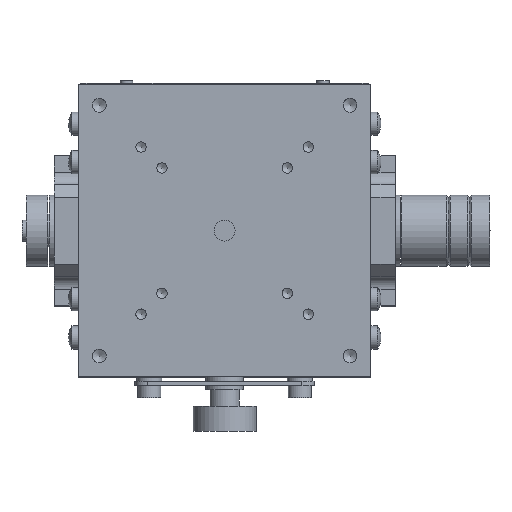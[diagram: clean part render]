
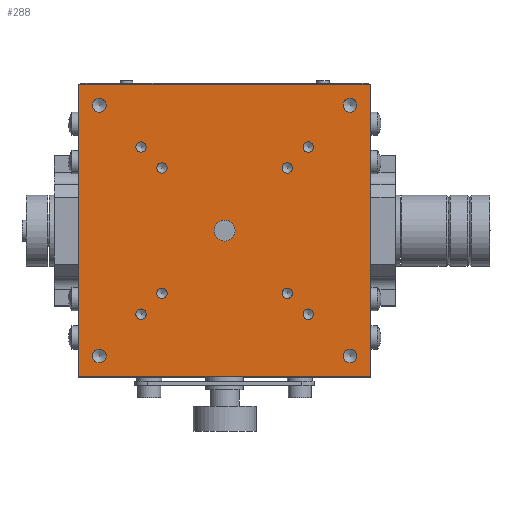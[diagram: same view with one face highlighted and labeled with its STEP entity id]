
A CAD part, top view. The second image highlights one B-rep face of the part: STEP entity #288.
In plain terms, the highlighted planar face has unit normal (0, 0, 1).
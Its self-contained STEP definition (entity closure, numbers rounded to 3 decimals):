
#288 = ADVANCED_FACE( '', ( #671, #672, #673, #674, #675, #676, #677, #678, #679, #680, #681, #682, #683, #684 ), #685, .T. );
#671 = FACE_BOUND( '', #1235, .T. );
#672 = FACE_BOUND( '', #1236, .T. );
#673 = FACE_BOUND( '', #1237, .T. );
#674 = FACE_BOUND( '', #1238, .T. );
#675 = FACE_BOUND( '', #1239, .T. );
#676 = FACE_BOUND( '', #1240, .T. );
#677 = FACE_BOUND( '', #1241, .T. );
#678 = FACE_BOUND( '', #1242, .T. );
#679 = FACE_BOUND( '', #1243, .T. );
#680 = FACE_BOUND( '', #1244, .T. );
#681 = FACE_BOUND( '', #1245, .T. );
#682 = FACE_BOUND( '', #1246, .T. );
#683 = FACE_OUTER_BOUND( '', #1247, .T. );
#684 = FACE_BOUND( '', #1248, .T. );
#685 = PLANE( '', #1249 );
#1235 = EDGE_LOOP( '', ( #2398 ) );
#1236 = EDGE_LOOP( '', ( #2399 ) );
#1237 = EDGE_LOOP( '', ( #2400 ) );
#1238 = EDGE_LOOP( '', ( #2401 ) );
#1239 = EDGE_LOOP( '', ( #2402 ) );
#1240 = EDGE_LOOP( '', ( #2403 ) );
#1241 = EDGE_LOOP( '', ( #2404 ) );
#1242 = EDGE_LOOP( '', ( #2405 ) );
#1243 = EDGE_LOOP( '', ( #2406 ) );
#1244 = EDGE_LOOP( '', ( #2407 ) );
#1245 = EDGE_LOOP( '', ( #2408 ) );
#1246 = EDGE_LOOP( '', ( #2409 ) );
#1247 = EDGE_LOOP( '', ( #2410, #2411, #2412, #2413 ) );
#1248 = EDGE_LOOP( '', ( #2414 ) );
#1249 = AXIS2_PLACEMENT_3D( '', #2415, #2416, #2417 );
#2398 = ORIENTED_EDGE( '', *, *, #3209, .T. );
#2399 = ORIENTED_EDGE( '', *, *, #3210, .T. );
#2400 = ORIENTED_EDGE( '', *, *, #3211, .T. );
#2401 = ORIENTED_EDGE( '', *, *, #3212, .T. );
#2402 = ORIENTED_EDGE( '', *, *, #3213, .T. );
#2403 = ORIENTED_EDGE( '', *, *, #3214, .T. );
#2404 = ORIENTED_EDGE( '', *, *, #3215, .T. );
#2405 = ORIENTED_EDGE( '', *, *, #3216, .T. );
#2406 = ORIENTED_EDGE( '', *, *, #3217, .T. );
#2407 = ORIENTED_EDGE( '', *, *, #3218, .T. );
#2408 = ORIENTED_EDGE( '', *, *, #3219, .T. );
#2409 = ORIENTED_EDGE( '', *, *, #3220, .T. );
#2410 = ORIENTED_EDGE( '', *, *, #3221, .F. );
#2411 = ORIENTED_EDGE( '', *, *, #3222, .F. );
#2412 = ORIENTED_EDGE( '', *, *, #3223, .F. );
#2413 = ORIENTED_EDGE( '', *, *, #3200, .F. );
#2414 = ORIENTED_EDGE( '', *, *, #3224, .T. );
#2415 = CARTESIAN_POINT( '', ( 0., 0., 26. ) );
#2416 = DIRECTION( '', ( 0., 0., 1. ) );
#2417 = DIRECTION( '', ( -1., 0., 0. ) );
#3200 = EDGE_CURVE( '', #3786, #3789, #3790, .T. );
#3209 = EDGE_CURVE( '', #3806, #3806, #3807, .T. );
#3210 = EDGE_CURVE( '', #3808, #3808, #3809, .T. );
#3211 = EDGE_CURVE( '', #3810, #3810, #3811, .T. );
#3212 = EDGE_CURVE( '', #3812, #3812, #3813, .T. );
#3213 = EDGE_CURVE( '', #3814, #3814, #3815, .T. );
#3214 = EDGE_CURVE( '', #3816, #3816, #3817, .T. );
#3215 = EDGE_CURVE( '', #3818, #3818, #3819, .T. );
#3216 = EDGE_CURVE( '', #3820, #3820, #3821, .T. );
#3217 = EDGE_CURVE( '', #3822, #3822, #3823, .T. );
#3218 = EDGE_CURVE( '', #3824, #3824, #3825, .T. );
#3219 = EDGE_CURVE( '', #3826, #3826, #3827, .T. );
#3220 = EDGE_CURVE( '', #3828, #3828, #3829, .T. );
#3221 = EDGE_CURVE( '', #3830, #3786, #3831, .T. );
#3222 = EDGE_CURVE( '', #3832, #3830, #3833, .T. );
#3223 = EDGE_CURVE( '', #3789, #3832, #3834, .T. );
#3224 = EDGE_CURVE( '', #3835, #3835, #3836, .T. );
#3786 = VERTEX_POINT( '', #4896 );
#3789 = VERTEX_POINT( '', #4900 );
#3790 = LINE( '', #4901, #4902 );
#3806 = VERTEX_POINT( '', #4924 );
#3807 = CIRCLE( '', #4925, 1.25 );
#3808 = VERTEX_POINT( '', #4926 );
#3809 = CIRCLE( '', #4927, 1.25 );
#3810 = VERTEX_POINT( '', #4928 );
#3811 = CIRCLE( '', #4929, 1.25 );
#3812 = VERTEX_POINT( '', #4930 );
#3813 = CIRCLE( '', #4931, 1.25 );
#3814 = VERTEX_POINT( '', #4932 );
#3815 = CIRCLE( '', #4933, 1.25 );
#3816 = VERTEX_POINT( '', #4934 );
#3817 = CIRCLE( '', #4935, 1.25 );
#3818 = VERTEX_POINT( '', #4936 );
#3819 = CIRCLE( '', #4937, 1.25 );
#3820 = VERTEX_POINT( '', #4938 );
#3821 = CIRCLE( '', #4939, 1.25 );
#3822 = VERTEX_POINT( '', #4940 );
#3823 = CIRCLE( '', #4941, 1.65 );
#3824 = VERTEX_POINT( '', #4942 );
#3825 = CIRCLE( '', #4943, 1.65 );
#3826 = VERTEX_POINT( '', #4944 );
#3827 = CIRCLE( '', #4945, 1.65 );
#3828 = VERTEX_POINT( '', #4946 );
#3829 = CIRCLE( '', #4947, 1.65 );
#3830 = VERTEX_POINT( '', #4948 );
#3831 = LINE( '', #4949, #4950 );
#3832 = VERTEX_POINT( '', #4951 );
#3833 = LINE( '', #4952, #4953 );
#3834 = LINE( '', #4954, #4955 );
#3835 = VERTEX_POINT( '', #4956 );
#3836 = CIRCLE( '', #4957, 2.5 );
#4896 = CARTESIAN_POINT( '', ( -35., -35., 26. ) );
#4900 = CARTESIAN_POINT( '', ( -35., 35., 26. ) );
#4901 = CARTESIAN_POINT( '', ( -35., 0., 26. ) );
#4902 = VECTOR( '', #5596, 1000. );
#4924 = CARTESIAN_POINT( '', ( 16.25, -15., 26. ) );
#4925 = AXIS2_PLACEMENT_3D( '', #5609, #5610, #5611 );
#4926 = CARTESIAN_POINT( '', ( 16.25, 15., 26. ) );
#4927 = AXIS2_PLACEMENT_3D( '', #5612, #5613, #5614 );
#4928 = CARTESIAN_POINT( '', ( -13.75, 15., 26. ) );
#4929 = AXIS2_PLACEMENT_3D( '', #5615, #5616, #5617 );
#4930 = CARTESIAN_POINT( '', ( -13.75, -15., 26. ) );
#4931 = AXIS2_PLACEMENT_3D( '', #5618, #5619, #5620 );
#4932 = CARTESIAN_POINT( '', ( 21.25, -20., 26. ) );
#4933 = AXIS2_PLACEMENT_3D( '', #5621, #5622, #5623 );
#4934 = CARTESIAN_POINT( '', ( 21.25, 20., 26. ) );
#4935 = AXIS2_PLACEMENT_3D( '', #5624, #5625, #5626 );
#4936 = CARTESIAN_POINT( '', ( -18.75, 20., 26. ) );
#4937 = AXIS2_PLACEMENT_3D( '', #5627, #5628, #5629 );
#4938 = CARTESIAN_POINT( '', ( -18.75, -20., 26. ) );
#4939 = AXIS2_PLACEMENT_3D( '', #5630, #5631, #5632 );
#4940 = CARTESIAN_POINT( '', ( 30., -31.65, 26. ) );
#4941 = AXIS2_PLACEMENT_3D( '', #5633, #5634, #5635 );
#4942 = CARTESIAN_POINT( '', ( 30., 28.35, 26. ) );
#4943 = AXIS2_PLACEMENT_3D( '', #5636, #5637, #5638 );
#4944 = CARTESIAN_POINT( '', ( -30., 28.35, 26. ) );
#4945 = AXIS2_PLACEMENT_3D( '', #5639, #5640, #5641 );
#4946 = CARTESIAN_POINT( '', ( -30., -31.65, 26. ) );
#4947 = AXIS2_PLACEMENT_3D( '', #5642, #5643, #5644 );
#4948 = CARTESIAN_POINT( '', ( 35., -35., 26. ) );
#4949 = CARTESIAN_POINT( '', ( 0., -35., 26. ) );
#4950 = VECTOR( '', #5645, 1000. );
#4951 = CARTESIAN_POINT( '', ( 35., 35., 26. ) );
#4952 = CARTESIAN_POINT( '', ( 35., 0., 26. ) );
#4953 = VECTOR( '', #5646, 1000. );
#4954 = CARTESIAN_POINT( '', ( 0., 35., 26. ) );
#4955 = VECTOR( '', #5647, 1000. );
#4956 = CARTESIAN_POINT( '', ( 0., 2.5, 26. ) );
#4957 = AXIS2_PLACEMENT_3D( '', #5648, #5649, #5650 );
#5596 = DIRECTION( '', ( 0., 1., 0. ) );
#5609 = CARTESIAN_POINT( '', ( 15., -15., 26. ) );
#5610 = DIRECTION( '', ( 0., 0., -1. ) );
#5611 = DIRECTION( '', ( 1., 0., 0. ) );
#5612 = CARTESIAN_POINT( '', ( 15., 15., 26. ) );
#5613 = DIRECTION( '', ( 0., 0., -1. ) );
#5614 = DIRECTION( '', ( 1., 0., 0. ) );
#5615 = CARTESIAN_POINT( '', ( -15., 15., 26. ) );
#5616 = DIRECTION( '', ( 0., 0., -1. ) );
#5617 = DIRECTION( '', ( 1., 0., 0. ) );
#5618 = CARTESIAN_POINT( '', ( -15., -15., 26. ) );
#5619 = DIRECTION( '', ( 0., 0., -1. ) );
#5620 = DIRECTION( '', ( 1., 0., 0. ) );
#5621 = CARTESIAN_POINT( '', ( 20., -20., 26. ) );
#5622 = DIRECTION( '', ( 0., 0., -1. ) );
#5623 = DIRECTION( '', ( 1., 0., 0. ) );
#5624 = CARTESIAN_POINT( '', ( 20., 20., 26. ) );
#5625 = DIRECTION( '', ( 0., 0., -1. ) );
#5626 = DIRECTION( '', ( 1., 0., 0. ) );
#5627 = CARTESIAN_POINT( '', ( -20., 20., 26. ) );
#5628 = DIRECTION( '', ( 0., 0., -1. ) );
#5629 = DIRECTION( '', ( 1., 0., 0. ) );
#5630 = CARTESIAN_POINT( '', ( -20., -20., 26. ) );
#5631 = DIRECTION( '', ( 0., 0., -1. ) );
#5632 = DIRECTION( '', ( 1., 0., 0. ) );
#5633 = CARTESIAN_POINT( '', ( 30., -30., 26. ) );
#5634 = DIRECTION( '', ( 0., 0., -1. ) );
#5635 = DIRECTION( '', ( 0., -1., 0. ) );
#5636 = CARTESIAN_POINT( '', ( 30., 30., 26. ) );
#5637 = DIRECTION( '', ( 0., 0., -1. ) );
#5638 = DIRECTION( '', ( 0., -1., 0. ) );
#5639 = CARTESIAN_POINT( '', ( -30., 30., 26. ) );
#5640 = DIRECTION( '', ( 0., 0., -1. ) );
#5641 = DIRECTION( '', ( 0., -1., 0. ) );
#5642 = CARTESIAN_POINT( '', ( -30., -30., 26. ) );
#5643 = DIRECTION( '', ( 0., 0., -1. ) );
#5644 = DIRECTION( '', ( 0., -1., 0. ) );
#5645 = DIRECTION( '', ( -1., 0., 0. ) );
#5646 = DIRECTION( '', ( 0., -1., 0. ) );
#5647 = DIRECTION( '', ( 1., 0., 0. ) );
#5648 = CARTESIAN_POINT( '', ( 0., 0., 26. ) );
#5649 = DIRECTION( '', ( 0., 0., -1. ) );
#5650 = DIRECTION( '', ( 0., 1., 0. ) );
